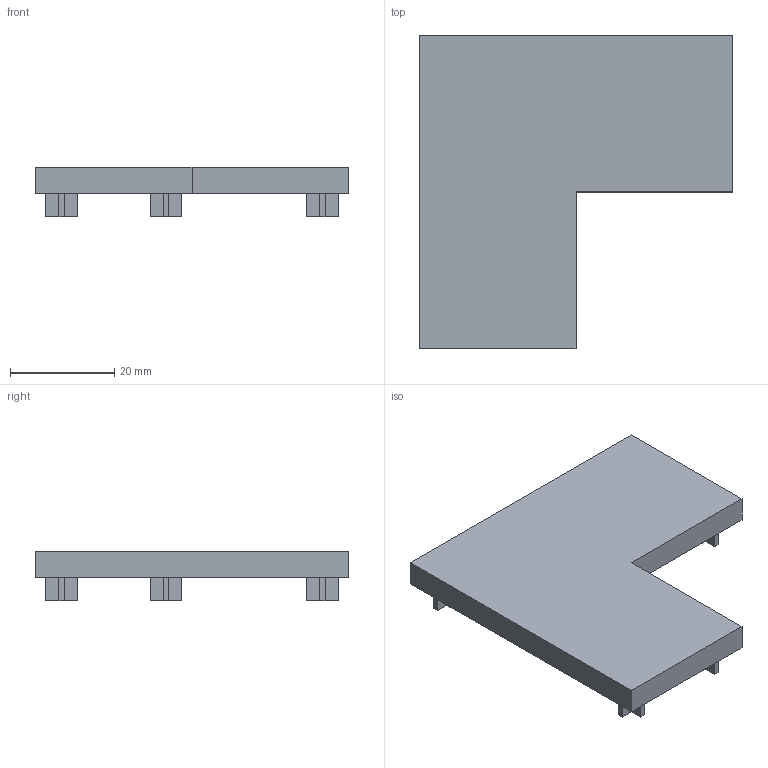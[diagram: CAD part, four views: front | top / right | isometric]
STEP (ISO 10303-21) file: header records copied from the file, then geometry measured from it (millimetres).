
FILE_DESCRIPTION(/* description */ ('Unknown'),/* implementation_level */ '2;1');
FILE_NAME(/* name */ 'CAP6630',/* time_stamp */ '2026-08-31T14:25:19+08:00',/* author */ ('Unknown'),/* organization */ ('Unknown'),/* preprocessor_version */ 'ST-DEVELOPER v16.7',/* originating_system */ 'DEX',/* authorisation */ $);
FILE_SCHEMA (('AUTOMOTIVE_DESIGN {1 0 10303 214 3 1 1}'));
Length unit declared in the file: millimetre
Products named in the file (1): CAP
Bounding box: 60 x 60 x 9.5 mm (x, y, z)
Volume: 4111.5 mm3; surface area: 8548 mm2
Topology: 1 solids, 1 shells, 80 faces, 216 edges, 144 vertices
Faces by surface type: plane 80
Entity records: 2490 total; most frequent: CARTESIAN_POINT 441, ORIENTED_EDGE 432, DIRECTION 378, EDGE_CURVE 216, LINE 216, VECTOR 216, VERTEX_POINT 144, EDGE_LOOP 86
